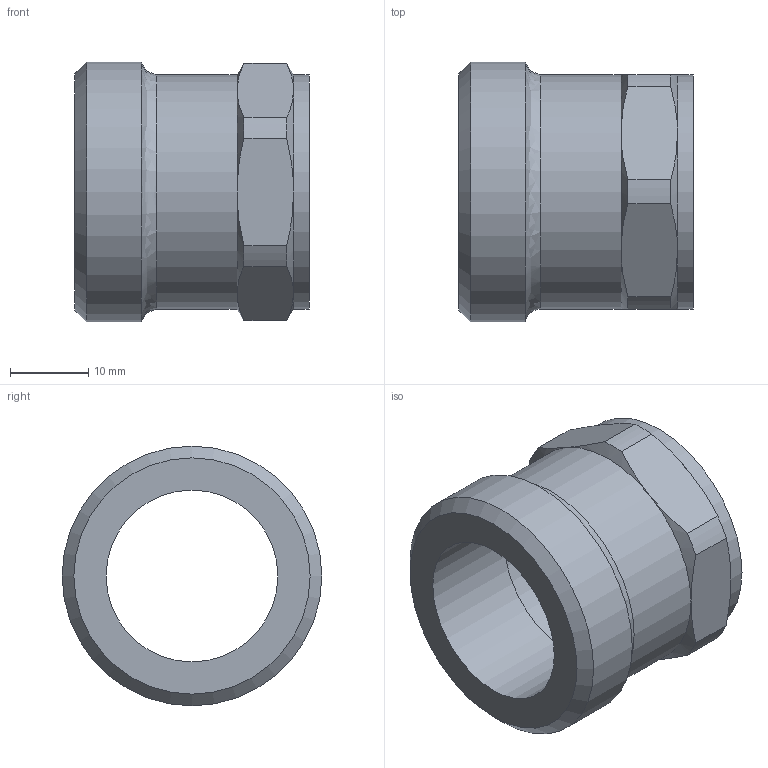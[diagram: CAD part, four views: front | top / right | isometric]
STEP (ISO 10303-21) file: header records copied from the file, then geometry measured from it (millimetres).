
FILE_DESCRIPTION((''),'2;1');
FILE_NAME('G:\Engineering\Public\RYSUNKI\SANHA POLSKA\4370G\step\14370g-34_1(1).stp','2013-09-25T14:10:50',('haldrzynski'),(''),'Autodesk Inventor 2009','Autodesk Inventor 2009','');
FILE_SCHEMA(('AUTOMOTIVE_DESIGN { 1 0 10303 214 1 1 1 1 }'));
Length unit declared in the file: millimetre
Products named in the file (1): 14370g-34_1(1)
Bounding box: 30 x 33.25 x 33.25 mm (x, y, z)
Volume: 10202.7 mm3; surface area: 5974.1 mm2
Topology: 1 solids, 1 shells, 35 faces, 79 edges, 47 vertices
Faces by surface type: cone 14, cylinder 11, plane 9, bspline 1
Full cylindrical faces by diameter (mm): 22 x1, 24.12 x1, 30 x2, 33.249 x1
Entity records: 950 total; most frequent: CARTESIAN_POINT 226, DIRECTION 150, ORIENTED_EDGE 140, EDGE_CURVE 70, AXIS2_PLACEMENT_3D 69, VERTEX_POINT 46, EDGE_LOOP 46, FACE_OUTER_BOUND 35
